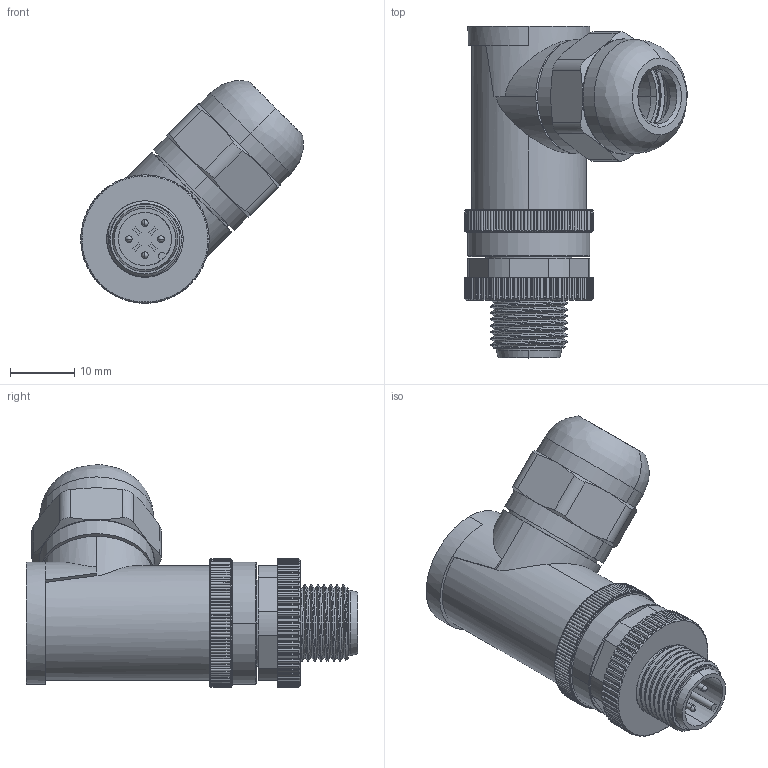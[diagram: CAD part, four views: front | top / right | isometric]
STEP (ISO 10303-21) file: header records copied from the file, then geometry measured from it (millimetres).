
FILE_DESCRIPTION((''),'2;1');
FILE_NAME('M12-3MR_P-PG9','2025-06-23T13:30:06',('lyj'),(''),'CREO PARAMETRIC BY PTC INC, 2019010','CREO PARAMETRIC BY PTC INC, 2019010','');
FILE_SCHEMA(('CONFIG_CONTROL_DESIGN'));
Length unit declared in the file: millimetre
Products named in the file (1): M12-3MR_P-PG9
Bounding box: 34.66 x 51.7 x 34.66 mm (x, y, z)
Volume: 10256.7 mm3; surface area: 13893.1 mm2
Topology: 2 solids, 14 shells, 1627 faces, 4325 edges, 2764 vertices
Faces by surface type: cylinder 785, cone 369, plane 363, bspline 50, extrusion 28, torus 24, sphere 8
Entity records: 73540 total; most frequent: CARTESIAN_POINT 34826, ORIENTED_EDGE 8634, DIRECTION 7439, EDGE_CURVE 4317, AXIS2_PLACEMENT_3D 2968, VERTEX_POINT 2764, EDGE_LOOP 1711, FACE_OUTER_BOUND 1627
